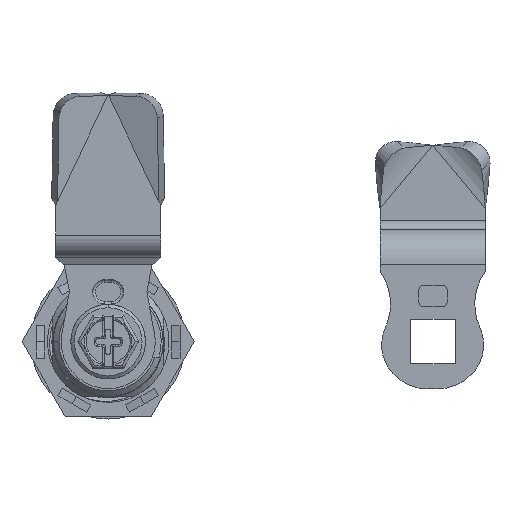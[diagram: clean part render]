
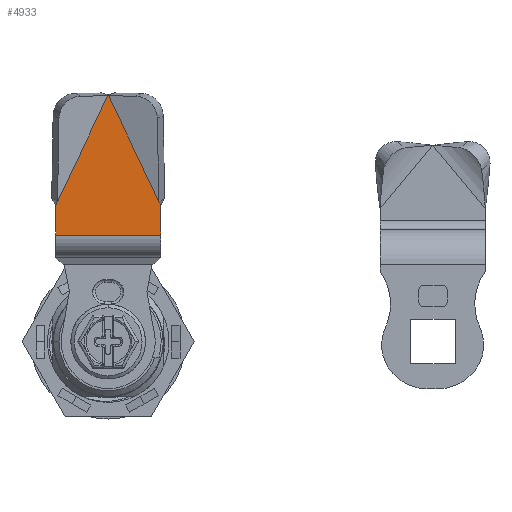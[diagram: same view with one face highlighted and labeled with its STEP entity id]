
A CAD part, front view. The second image highlights one B-rep face of the part: STEP entity #4933.
In plain terms, the highlighted planar face has unit normal (0, -1, 0) as drawn and (0, 1, 0) by its records, which use the part's own axes.
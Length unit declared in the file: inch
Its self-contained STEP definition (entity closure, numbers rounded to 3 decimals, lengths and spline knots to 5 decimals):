
#3655=DIRECTION('',(0.,0.,-1.));
#3656=VECTOR('',#3655,0.74803);
#3657=CARTESIAN_POINT('',(-0.75915,0.39259,
0.37402));
#3658=LINE('',#3657,#3656);
#3669=DIRECTION('',(-1.,0.,0.));
#3670=VECTOR('',#3669,0.21129);
#3671=CARTESIAN_POINT('',(-0.75915,0.39259,
0.37402));
#3672=LINE('',#3671,#3670);
#3676=DIRECTION('',(-0.903,0.,-0.429));
#3677=VECTOR('',#3676,0.03131);
#3678=CARTESIAN_POINT('',(-0.97044,0.39259,
0.37402));
#3679=LINE('',#3678,#3677);
#3683=DIRECTION('',(-0.903,0.,-0.429));
#3684=VECTOR('',#3683,0.83334);
#3685=CARTESIAN_POINT('',(-0.99872,0.39259,
0.36058));
#3686=LINE('',#3685,#3684);
#3690=DIRECTION('',(-0.903,0.,-0.429));
#3691=VECTOR('',#3690,0.00706);
#3692=CARTESIAN_POINT('',(-1.75146,0.39259,
0.00303));
#3693=LINE('',#3692,#3691);
#3697=DIRECTION('',(0.903,0.,-0.429));
#3698=VECTOR('',#3697,0.00706);
#3699=CARTESIAN_POINT('',(-1.75784,0.39259,0.));
#3700=LINE('',#3699,#3698);
#3704=DIRECTION('',(0.903,0.,-0.429));
#3705=VECTOR('',#3704,0.03131);
#3706=CARTESIAN_POINT('',(-0.99872,0.39259,
-0.36058));
#3707=LINE('',#3706,#3705);
#3711=DIRECTION('',(1.,0.,0.));
#3712=VECTOR('',#3711,0.21129);
#3713=CARTESIAN_POINT('',(-0.97044,0.39259,
-0.37402));
#3714=LINE('',#3713,#3712);
#3897=DIRECTION('',(-0.903,0.,0.429));
#3898=VECTOR('',#3897,0.83334);
#3899=CARTESIAN_POINT('',(-0.99872,0.39259,
-0.36058));
#3900=LINE('',#3899,#3898);
#4676=CARTESIAN_POINT('',(-0.75915,0.39259,
0.37402));
#4677=CARTESIAN_POINT('',(-0.75915,0.39259,
-0.37402));
#4678=VERTEX_POINT('',#4676);
#4679=VERTEX_POINT('',#4677);
#4680=CARTESIAN_POINT('',(-0.97044,0.39259,
0.37402));
#4681=VERTEX_POINT('',#4680);
#4682=CARTESIAN_POINT('',(-0.99872,0.39259,
0.36058));
#4683=VERTEX_POINT('',#4682);
#4684=CARTESIAN_POINT('',(-1.75146,0.39259,
0.00303));
#4685=VERTEX_POINT('',#4684);
#4686=CARTESIAN_POINT('',(-1.75784,0.39259,0.));
#4687=VERTEX_POINT('',#4686);
#4688=CARTESIAN_POINT('',(-1.75146,0.39259,
-0.00303));
#4689=VERTEX_POINT('',#4688);
#4690=CARTESIAN_POINT('',(-0.99872,0.39259,
-0.36058));
#4691=VERTEX_POINT('',#4690);
#4692=CARTESIAN_POINT('',(-0.97044,0.39259,
-0.37402));
#4693=VERTEX_POINT('',#4692);
#4909=CARTESIAN_POINT('',(0.20291,0.39259,0.));
#4910=DIRECTION('',(0.,1.,0.));
#4911=DIRECTION('',(1.,0.,0.));
#4912=AXIS2_PLACEMENT_3D('',#4909,#4910,#4911);
#4913=PLANE('',#4912);
#4914=ORIENTED_EDGE('',*,*,#4899,.F.);
#4916=ORIENTED_EDGE('',*,*,#4915,.T.);
#4918=ORIENTED_EDGE('',*,*,#4917,.T.);
#4920=ORIENTED_EDGE('',*,*,#4919,.T.);
#4922=ORIENTED_EDGE('',*,*,#4921,.T.);
#4924=ORIENTED_EDGE('',*,*,#4923,.T.);
#4926=ORIENTED_EDGE('',*,*,#4925,.F.);
#4928=ORIENTED_EDGE('',*,*,#4927,.T.);
#4930=ORIENTED_EDGE('',*,*,#4929,.T.);
#4931=EDGE_LOOP('',(#4914,#4916,#4918,#4920,#4922,#4924,#4926,#4928,#4930));
#4932=FACE_OUTER_BOUND('',#4931,.F.);
#4899=EDGE_CURVE('',#4678,#4679,#3658,.T.);
#4915=EDGE_CURVE('',#4678,#4681,#3672,.T.);
#4917=EDGE_CURVE('',#4681,#4683,#3679,.T.);
#4919=EDGE_CURVE('',#4683,#4685,#3686,.T.);
#4921=EDGE_CURVE('',#4685,#4687,#3693,.T.);
#4923=EDGE_CURVE('',#4687,#4689,#3700,.T.);
#4925=EDGE_CURVE('',#4691,#4689,#3900,.T.);
#4927=EDGE_CURVE('',#4691,#4693,#3707,.T.);
#4929=EDGE_CURVE('',#4693,#4679,#3714,.T.);
#4933=ADVANCED_FACE('',(#4932),#4913,.T.);
